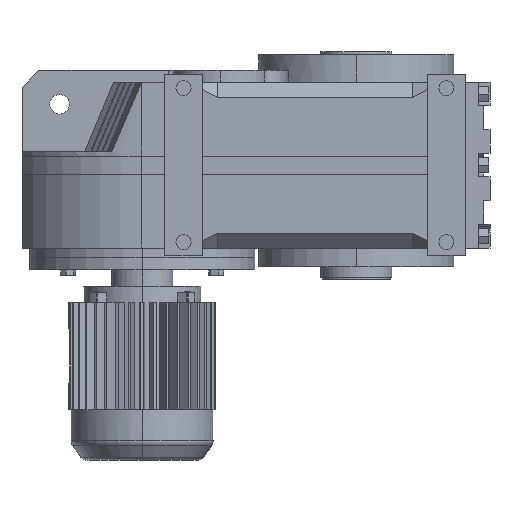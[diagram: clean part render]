
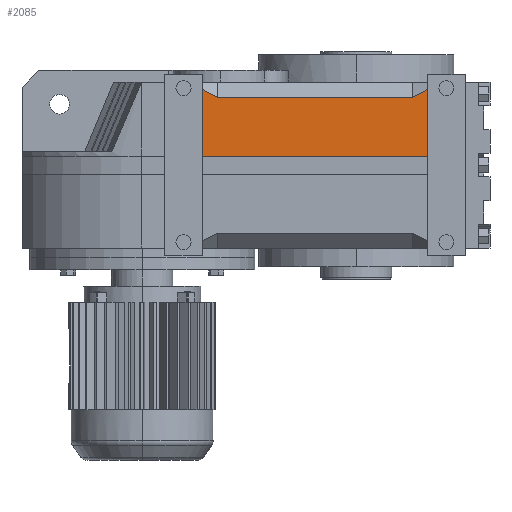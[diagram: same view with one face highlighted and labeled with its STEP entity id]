
A CAD part, left-side view. The second image highlights one B-rep face of the part: STEP entity #2085.
In plain terms, the highlighted planar face has unit normal (-1, 0, 0).
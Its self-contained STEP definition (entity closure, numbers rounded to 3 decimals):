
#145 = PLANE('',#146);
#146 = AXIS2_PLACEMENT_3D('',#147,#148,#149);
#147 = CARTESIAN_POINT('',(-162.4,-80.,3.));
#148 = DIRECTION('',(0.,-1.,0.));
#149 = DIRECTION('',(0.,0.,-1.));
#251 = PLANE('',#252);
#252 = AXIS2_PLACEMENT_3D('',#253,#254,#255);
#253 = CARTESIAN_POINT('',(-162.4,-380.,3.));
#254 = DIRECTION('',(0.,1.,0.));
#255 = DIRECTION('',(0.,0.,1.));
#395 = VERTEX_POINT('',#396);
#396 = CARTESIAN_POINT('',(-190.4,-80.,135.));
#410 = PLANE('',#411);
#411 = AXIS2_PLACEMENT_3D('',#412,#413,#414);
#412 = CARTESIAN_POINT('',(-14.299,1.,135.));
#413 = DIRECTION('',(0.,0.,-1.));
#414 = DIRECTION('',(-1.,0.,0.));
#422 = EDGE_CURVE('',#423,#395,#425,.T.);
#423 = VERTEX_POINT('',#424);
#424 = CARTESIAN_POINT('',(-190.4,-80.,223.695));
#425 = SURFACE_CURVE('',#426,(#430,#437),.PCURVE_S1.);
#426 = LINE('',#427,#428);
#427 = CARTESIAN_POINT('',(-190.4,-80.,233.4));
#428 = VECTOR('',#429,1.);
#429 = DIRECTION('',(0.,0.,-1.));
#430 = PCURVE('',#145,#431);
#431 = DEFINITIONAL_REPRESENTATION('',(#432),#436);
#432 = LINE('',#433,#434);
#433 = CARTESIAN_POINT('',(-230.4,-28.));
#434 = VECTOR('',#435,1.);
#435 = DIRECTION('',(1.,0.));
#436 = ( GEOMETRIC_REPRESENTATION_CONTEXT(2) 
PARAMETRIC_REPRESENTATION_CONTEXT() REPRESENTATION_CONTEXT('2D SPACE',''
  ) );
#437 = PCURVE('',#438,#443);
#438 = PLANE('',#439);
#439 = AXIS2_PLACEMENT_3D('',#440,#441,#442);
#440 = CARTESIAN_POINT('',(-190.4,-463.,233.4));
#441 = DIRECTION('',(1.,0.,0.));
#442 = DIRECTION('',(0.,0.,-1.));
#443 = DEFINITIONAL_REPRESENTATION('',(#444),#448);
#444 = LINE('',#445,#446);
#445 = CARTESIAN_POINT('',(0.,383.));
#446 = VECTOR('',#447,1.);
#447 = DIRECTION('',(1.,0.));
#448 = ( GEOMETRIC_REPRESENTATION_CONTEXT(2) 
PARAMETRIC_REPRESENTATION_CONTEXT() REPRESENTATION_CONTEXT('2D SPACE',''
  ) );
#466 = PLANE('',#467);
#467 = AXIS2_PLACEMENT_3D('',#468,#469,#470);
#468 = CARTESIAN_POINT('',(-286.747,-80.,127.347));
#469 = DIRECTION('',(-0.664,-0.342,0.664));
#470 = DIRECTION('',(0.707,0.,0.707)
  );
#1756 = VERTEX_POINT('',#1757);
#1757 = CARTESIAN_POINT('',(-190.4,-380.,223.695));
#1771 = PLANE('',#1772);
#1772 = AXIS2_PLACEMENT_3D('',#1773,#1774,#1775);
#1773 = CARTESIAN_POINT('',(-286.747,-380.,127.347));
#1774 = DIRECTION('',(-0.664,0.342,0.664));
#1775 = DIRECTION('',(0.707,0.,0.707)
  );
#1783 = EDGE_CURVE('',#1784,#1756,#1786,.T.);
#1784 = VERTEX_POINT('',#1785);
#1785 = CARTESIAN_POINT('',(-190.4,-380.,135.));
#1786 = SURFACE_CURVE('',#1787,(#1791,#1798),.PCURVE_S1.);
#1787 = LINE('',#1788,#1789);
#1788 = CARTESIAN_POINT('',(-190.4,-380.,233.4));
#1789 = VECTOR('',#1790,1.);
#1790 = DIRECTION('',(0.,0.,1.));
#1791 = PCURVE('',#251,#1792);
#1792 = DEFINITIONAL_REPRESENTATION('',(#1793),#1797);
#1793 = LINE('',#1794,#1795);
#1794 = CARTESIAN_POINT('',(230.4,-28.));
#1795 = VECTOR('',#1796,1.);
#1796 = DIRECTION('',(1.,0.));
#1797 = ( GEOMETRIC_REPRESENTATION_CONTEXT(2) 
PARAMETRIC_REPRESENTATION_CONTEXT() REPRESENTATION_CONTEXT('2D SPACE',''
  ) );
#1798 = PCURVE('',#438,#1799);
#1799 = DEFINITIONAL_REPRESENTATION('',(#1800),#1804);
#1800 = LINE('',#1801,#1802);
#1801 = CARTESIAN_POINT('',(0.,83.));
#1802 = VECTOR('',#1803,1.);
#1803 = DIRECTION('',(-1.,0.));
#1804 = ( GEOMETRIC_REPRESENTATION_CONTEXT(2) 
PARAMETRIC_REPRESENTATION_CONTEXT() REPRESENTATION_CONTEXT('2D SPACE',''
  ) );
#2085 = ADVANCED_FACE('',(#2086),#438,.F.);
#2086 = FACE_BOUND('',#2087,.T.);
#2087 = EDGE_LOOP('',(#2088,#2089,#2112,#2140,#2161,#2162));
#2088 = ORIENTED_EDGE('',*,*,#1783,.T.);
#2089 = ORIENTED_EDGE('',*,*,#2090,.T.);
#2090 = EDGE_CURVE('',#1756,#2091,#2093,.T.);
#2091 = VERTEX_POINT('',#2092);
#2092 = CARTESIAN_POINT('',(-190.4,-360.,213.4));
#2093 = SURFACE_CURVE('',#2094,(#2098,#2105),.PCURVE_S1.);
#2094 = LINE('',#2095,#2096);
#2095 = CARTESIAN_POINT('',(-190.4,-449.565,259.502));
#2096 = VECTOR('',#2097,1.);
#2097 = DIRECTION('',(0.,0.889,-0.458));
#2098 = PCURVE('',#438,#2099);
#2099 = DEFINITIONAL_REPRESENTATION('',(#2100),#2104);
#2100 = LINE('',#2101,#2102);
#2101 = CARTESIAN_POINT('',(-26.102,13.435));
#2102 = VECTOR('',#2103,1.);
#2103 = DIRECTION('',(0.458,0.889));
#2104 = ( GEOMETRIC_REPRESENTATION_CONTEXT(2) 
PARAMETRIC_REPRESENTATION_CONTEXT() REPRESENTATION_CONTEXT('2D SPACE',''
  ) );
#2105 = PCURVE('',#1771,#2106);
#2106 = DEFINITIONAL_REPRESENTATION('',(#2107),#2111);
#2107 = LINE('',#2108,#2109);
#2108 = CARTESIAN_POINT('',(161.575,-74.029));
#2109 = VECTOR('',#2110,1.);
#2110 = DIRECTION('',(-0.324,0.946));
#2111 = ( GEOMETRIC_REPRESENTATION_CONTEXT(2) 
PARAMETRIC_REPRESENTATION_CONTEXT() REPRESENTATION_CONTEXT('2D SPACE',''
  ) );
#2112 = ORIENTED_EDGE('',*,*,#2113,.T.);
#2113 = EDGE_CURVE('',#2091,#2114,#2116,.T.);
#2114 = VERTEX_POINT('',#2115);
#2115 = CARTESIAN_POINT('',(-190.4,-100.,213.4));
#2116 = SURFACE_CURVE('',#2117,(#2121,#2128),.PCURVE_S1.);
#2117 = LINE('',#2118,#2119);
#2118 = CARTESIAN_POINT('',(-190.4,-80.,213.4));
#2119 = VECTOR('',#2120,1.);
#2120 = DIRECTION('',(0.,1.,0.));
#2121 = PCURVE('',#438,#2122);
#2122 = DEFINITIONAL_REPRESENTATION('',(#2123),#2127);
#2123 = LINE('',#2124,#2125);
#2124 = CARTESIAN_POINT('',(20.,383.));
#2125 = VECTOR('',#2126,1.);
#2126 = DIRECTION('',(0.,1.));
#2127 = ( GEOMETRIC_REPRESENTATION_CONTEXT(2) 
PARAMETRIC_REPRESENTATION_CONTEXT() REPRESENTATION_CONTEXT('2D SPACE',''
  ) );
#2128 = PCURVE('',#2129,#2134);
#2129 = PLANE('',#2130);
#2130 = AXIS2_PLACEMENT_3D('',#2131,#2132,#2133);
#2131 = CARTESIAN_POINT('',(-170.4,1.,233.4));
#2132 = DIRECTION('',(-0.707,0.,0.707));
#2133 = DIRECTION('',(0.707,0.,0.707));
#2134 = DEFINITIONAL_REPRESENTATION('',(#2135),#2139);
#2135 = LINE('',#2136,#2137);
#2136 = CARTESIAN_POINT('',(-28.284,-81.));
#2137 = VECTOR('',#2138,1.);
#2138 = DIRECTION('',(0.,1.));
#2139 = ( GEOMETRIC_REPRESENTATION_CONTEXT(2) 
PARAMETRIC_REPRESENTATION_CONTEXT() REPRESENTATION_CONTEXT('2D SPACE',''
  ) );
#2140 = ORIENTED_EDGE('',*,*,#2141,.T.);
#2141 = EDGE_CURVE('',#2114,#423,#2142,.T.);
#2142 = SURFACE_CURVE('',#2143,(#2147,#2154),.PCURVE_S1.);
#2143 = LINE('',#2144,#2145);
#2144 = CARTESIAN_POINT('',(-190.4,-378.83,69.877));
#2145 = VECTOR('',#2146,1.);
#2146 = DIRECTION('',(0.,0.889,0.458));
#2147 = PCURVE('',#438,#2148);
#2148 = DEFINITIONAL_REPRESENTATION('',(#2149),#2153);
#2149 = LINE('',#2150,#2151);
#2150 = CARTESIAN_POINT('',(163.523,84.17));
#2151 = VECTOR('',#2152,1.);
#2152 = DIRECTION('',(-0.458,0.889));
#2153 = ( GEOMETRIC_REPRESENTATION_CONTEXT(2) 
PARAMETRIC_REPRESENTATION_CONTEXT() REPRESENTATION_CONTEXT('2D SPACE',''
  ) );
#2154 = PCURVE('',#466,#2155);
#2155 = DEFINITIONAL_REPRESENTATION('',(#2156),#2160);
#2156 = LINE('',#2157,#2158);
#2157 = CARTESIAN_POINT('',(27.491,-318.008));
#2158 = VECTOR('',#2159,1.);
#2159 = DIRECTION('',(0.324,0.946));
#2160 = ( GEOMETRIC_REPRESENTATION_CONTEXT(2) 
PARAMETRIC_REPRESENTATION_CONTEXT() REPRESENTATION_CONTEXT('2D SPACE',''
  ) );
#2161 = ORIENTED_EDGE('',*,*,#422,.T.);
#2162 = ORIENTED_EDGE('',*,*,#2163,.F.);
#2163 = EDGE_CURVE('',#1784,#395,#2164,.T.);
#2164 = SURFACE_CURVE('',#2165,(#2169,#2176),.PCURVE_S1.);
#2165 = LINE('',#2166,#2167);
#2166 = CARTESIAN_POINT('',(-190.4,-463.,135.));
#2167 = VECTOR('',#2168,1.);
#2168 = DIRECTION('',(0.,1.,0.));
#2169 = PCURVE('',#438,#2170);
#2170 = DEFINITIONAL_REPRESENTATION('',(#2171),#2175);
#2171 = LINE('',#2172,#2173);
#2172 = CARTESIAN_POINT('',(98.4,0.));
#2173 = VECTOR('',#2174,1.);
#2174 = DIRECTION('',(0.,1.));
#2175 = ( GEOMETRIC_REPRESENTATION_CONTEXT(2) 
PARAMETRIC_REPRESENTATION_CONTEXT() REPRESENTATION_CONTEXT('2D SPACE',''
  ) );
#2176 = PCURVE('',#410,#2177);
#2177 = DEFINITIONAL_REPRESENTATION('',(#2178),#2182);
#2178 = LINE('',#2179,#2180);
#2179 = CARTESIAN_POINT('',(176.101,-464.));
#2180 = VECTOR('',#2181,1.);
#2181 = DIRECTION('',(0.,1.));
#2182 = ( GEOMETRIC_REPRESENTATION_CONTEXT(2) 
PARAMETRIC_REPRESENTATION_CONTEXT() REPRESENTATION_CONTEXT('2D SPACE',''
  ) );
